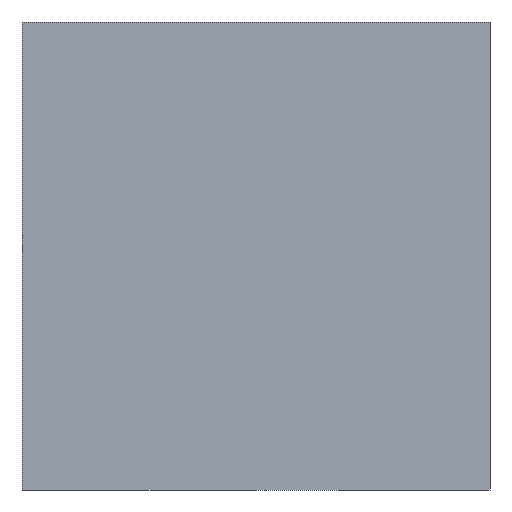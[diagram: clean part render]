
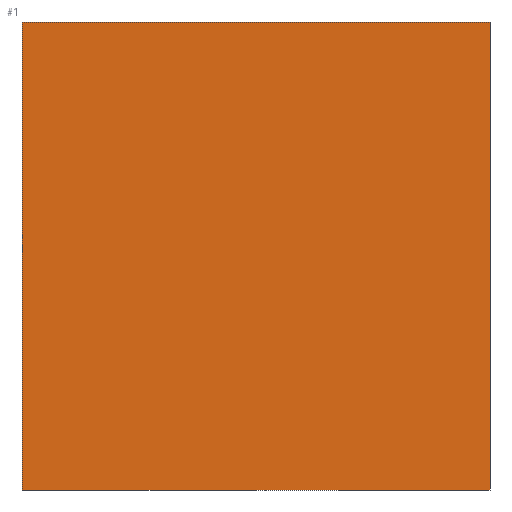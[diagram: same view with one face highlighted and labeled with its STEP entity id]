
A CAD part, left-side view. The second image highlights one B-rep face of the part: STEP entity #1.
In plain terms, the highlighted planar face has unit normal (-1, 0, 0).
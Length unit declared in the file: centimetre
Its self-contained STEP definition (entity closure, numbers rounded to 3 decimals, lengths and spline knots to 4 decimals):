
#1 = ADVANCED_FACE ( 'NONE', ( #235 ), #40, .F. ) ;
#5 = VECTOR ( 'NONE', #487, 100. ) ;
#33 = EDGE_LOOP ( 'NONE', ( #255, #244, #366, #221 ) ) ;
#40 = PLANE ( 'NONE',  #320 ) ;
#48 = LINE ( 'NONE', #442, #567 ) ;
#71 = EDGE_CURVE ( 'NONE', #449, #352, #489, .T. ) ;
#121 = LINE ( 'NONE', #309, #493 ) ;
#214 = EDGE_CURVE ( 'NONE', #440, #401, #121, .T. ) ;
#216 = DIRECTION ( 'NONE',  ( 0., -1., 0. ) ) ;
#221 = ORIENTED_EDGE ( 'NONE', *, *, #471, .T. ) ;
#235 = FACE_OUTER_BOUND ( 'NONE', #33, .T. ) ;
#244 = ORIENTED_EDGE ( 'NONE', *, *, #468, .F. ) ;
#255 = ORIENTED_EDGE ( 'NONE', *, *, #71, .T. ) ;
#279 = DIRECTION ( 'NONE',  ( 1., 0., 0. ) ) ;
#280 = CARTESIAN_POINT ( 'NONE',  ( 0., 1000., 0. ) ) ;
#306 = DIRECTION ( 'NONE',  ( 0., -1., 0. ) ) ;
#309 = CARTESIAN_POINT ( 'NONE',  ( 0., 1000., 1000. ) ) ;
#320 = AXIS2_PLACEMENT_3D ( 'NONE', #532, #279, #423 ) ;
#352 = VERTEX_POINT ( 'NONE', #531 ) ;
#366 = ORIENTED_EDGE ( 'NONE', *, *, #214, .F. ) ;
#387 = LINE ( 'NONE', #578, #5 ) ;
#401 = VERTEX_POINT ( 'NONE', #480 ) ;
#423 = DIRECTION ( 'NONE',  ( 0., 0., -1. ) ) ;
#431 = VECTOR ( 'NONE', #306, 100. ) ;
#440 = VERTEX_POINT ( 'NONE', #608 ) ;
#442 = CARTESIAN_POINT ( 'NONE',  ( 0., 1000., 1000. ) ) ;
#449 = VERTEX_POINT ( 'NONE', #280 ) ;
#468 = EDGE_CURVE ( 'NONE', #401, #352, #387, .T. ) ;
#471 = EDGE_CURVE ( 'NONE', #440, #449, #48, .T. ) ;
#480 = CARTESIAN_POINT ( 'NONE',  ( 0., 0., 1000. ) ) ;
#487 = DIRECTION ( 'NONE',  ( 0., 0., -1. ) ) ;
#489 = LINE ( 'NONE', #549, #431 ) ;
#493 = VECTOR ( 'NONE', #216, 100. ) ;
#531 = CARTESIAN_POINT ( 'NONE',  ( 0., 0., 0. ) ) ;
#532 = CARTESIAN_POINT ( 'NONE',  ( 0., 1000., 1000. ) ) ;
#549 = CARTESIAN_POINT ( 'NONE',  ( 0., 1000., 0. ) ) ;
#567 = VECTOR ( 'NONE', #630, 100. ) ;
#578 = CARTESIAN_POINT ( 'NONE',  ( 0., 0., 1000. ) ) ;
#608 = CARTESIAN_POINT ( 'NONE',  ( 0., 1000., 1000. ) ) ;
#630 = DIRECTION ( 'NONE',  ( 0., 0., -1. ) ) ;
